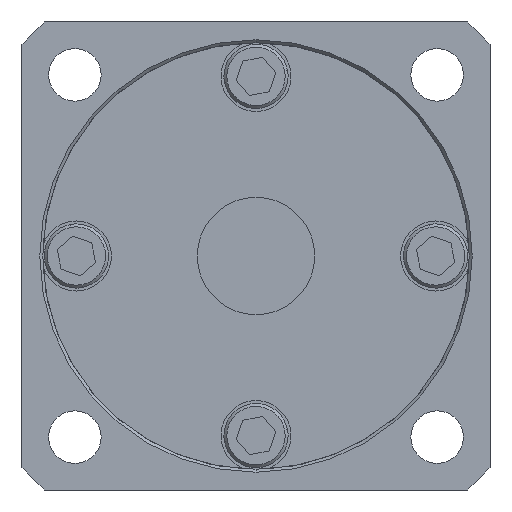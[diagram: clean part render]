
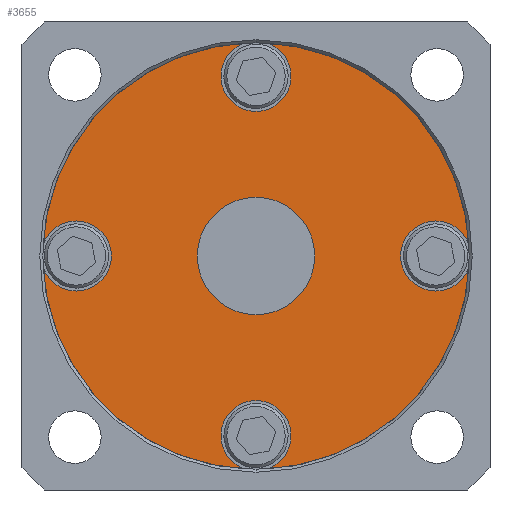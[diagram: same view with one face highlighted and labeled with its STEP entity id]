
A CAD part, front view. The second image highlights one B-rep face of the part: STEP entity #3655.
In plain terms, the highlighted planar face has unit normal (0, -1, 0).
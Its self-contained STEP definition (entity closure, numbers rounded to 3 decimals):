
#2971=CARTESIAN_POINT('',(0.,0.,0.));
#2972=DIRECTION('',(0.,-1.,0.));
#2973=DIRECTION('',(0.999,0.,0.051));
#2974=AXIS2_PLACEMENT_3D('',#2971,#2972,#2973);
#2979=CARTESIAN_POINT('',(15.375,0.,0.));
#2980=DIRECTION('',(0.,1.,0.));
#2981=DIRECTION('',(0.,0.,1.));
#2982=AXIS2_PLACEMENT_3D('',#2979,#2980,#2981);
#2987=CARTESIAN_POINT('',(15.375,0.,0.));
#2988=DIRECTION('',(0.,1.,0.));
#2989=DIRECTION('',(0.,0.,-1.));
#2990=AXIS2_PLACEMENT_3D('',#2987,#2988,#2989);
#2995=CARTESIAN_POINT('',(15.375,0.,0.));
#2996=DIRECTION('',(0.,1.,0.));
#2997=DIRECTION('',(0.95,0.,-0.311));
#2998=AXIS2_PLACEMENT_3D('',#2995,#2996,#2997);
#3003=CARTESIAN_POINT('',(0.,0.,0.));
#3004=DIRECTION('',(0.,-1.,0.));
#3005=DIRECTION('',(0.051,0.,-0.999));
#3006=AXIS2_PLACEMENT_3D('',#3003,#3004,#3005);
#3011=CARTESIAN_POINT('',(0.,0.,-15.375));
#3012=DIRECTION('',(0.,1.,0.));
#3013=DIRECTION('',(0.,0.,1.));
#3014=AXIS2_PLACEMENT_3D('',#3011,#3012,#3013);
#3019=CARTESIAN_POINT('',(0.,0.,-15.375));
#3020=DIRECTION('',(0.,1.,0.));
#3021=DIRECTION('',(-0.311,0.,-0.95));
#3022=AXIS2_PLACEMENT_3D('',#3019,#3020,#3021);
#3027=CARTESIAN_POINT('',(0.,0.,0.));
#3028=DIRECTION('',(0.,-1.,0.));
#3029=DIRECTION('',(-0.999,0.,-0.051));
#3030=AXIS2_PLACEMENT_3D('',#3027,#3028,#3029);
#3035=CARTESIAN_POINT('',(-15.375,0.,0.));
#3036=DIRECTION('',(0.,1.,0.));
#3037=DIRECTION('',(0.,0.,-1.));
#3038=AXIS2_PLACEMENT_3D('',#3035,#3036,#3037);
#3043=CARTESIAN_POINT('',(-15.375,0.,0.));
#3044=DIRECTION('',(0.,1.,0.));
#3045=DIRECTION('',(0.,0.,1.));
#3046=AXIS2_PLACEMENT_3D('',#3043,#3044,#3045);
#3051=CARTESIAN_POINT('',(-15.375,0.,0.));
#3052=DIRECTION('',(0.,1.,0.));
#3053=DIRECTION('',(-0.95,0.,0.311));
#3054=AXIS2_PLACEMENT_3D('',#3051,#3052,#3053);
#3059=CARTESIAN_POINT('',(0.,0.,0.));
#3060=DIRECTION('',(0.,-1.,0.));
#3061=DIRECTION('',(-0.051,0.,0.999));
#3062=AXIS2_PLACEMENT_3D('',#3059,#3060,#3061);
#3067=CARTESIAN_POINT('',(0.,0.,15.375));
#3068=DIRECTION('',(0.,1.,0.));
#3069=DIRECTION('',(0.,0.,-1.));
#3070=AXIS2_PLACEMENT_3D('',#3067,#3068,#3069);
#3075=CARTESIAN_POINT('',(0.,0.,15.375));
#3076=DIRECTION('',(0.,1.,0.));
#3077=DIRECTION('',(0.311,0.,0.95));
#3078=AXIS2_PLACEMENT_3D('',#3075,#3076,#3077);
#3083=CARTESIAN_POINT('',(0.,0.,0.));
#3084=DIRECTION('',(0.,1.,0.));
#3085=DIRECTION('',(0.,0.,-1.));
#3086=AXIS2_PLACEMENT_3D('',#3083,#3084,#3085);
#3091=CARTESIAN_POINT('',(0.,0.,0.));
#3092=DIRECTION('',(0.,1.,0.));
#3093=DIRECTION('',(0.,0.,1.));
#3094=AXIS2_PLACEMENT_3D('',#3091,#3092,#3093);
#3424=CARTESIAN_POINT('',(15.375,0.,-3.));
#3425=VERTEX_POINT('',#3424);
#3426=CARTESIAN_POINT('',(18.226,0.,-0.933));
#3427=VERTEX_POINT('',#3426);
#3434=CARTESIAN_POINT('',(15.375,0.,3.));
#3435=VERTEX_POINT('',#3434);
#3446=CARTESIAN_POINT('',(0.933,0.,-18.226));
#3447=VERTEX_POINT('',#3446);
#3452=CARTESIAN_POINT('',(0.,0.,-12.375));
#3453=VERTEX_POINT('',#3452);
#3454=CARTESIAN_POINT('',(-0.933,0.,-18.226));
#3455=VERTEX_POINT('',#3454);
#3456=CARTESIAN_POINT('',(18.226,0.,0.933));
#3457=VERTEX_POINT('',#3456);
#3470=CARTESIAN_POINT('',(0.933,0.,18.226));
#3471=VERTEX_POINT('',#3470);
#3484=CARTESIAN_POINT('',(0.,0.,-5.025));
#3485=CARTESIAN_POINT('',(0.,0.,5.025));
#3486=VERTEX_POINT('',#3484);
#3487=VERTEX_POINT('',#3485);
#3488=CARTESIAN_POINT('',(0.,0.,12.375));
#3489=CARTESIAN_POINT('',(-0.933,0.,18.226));
#3490=VERTEX_POINT('',#3488);
#3491=VERTEX_POINT('',#3489);
#3494=CARTESIAN_POINT('',(-15.375,0.,-3.));
#3495=VERTEX_POINT('',#3494);
#3496=CARTESIAN_POINT('',(-15.375,0.,3.));
#3497=VERTEX_POINT('',#3496);
#3498=CARTESIAN_POINT('',(-18.226,0.,-0.933));
#3499=VERTEX_POINT('',#3498);
#3504=CARTESIAN_POINT('',(-18.226,0.,0.933));
#3505=VERTEX_POINT('',#3504);
#3616=CARTESIAN_POINT('',(0.,0.,0.));
#3617=DIRECTION('',(0.,1.,0.));
#3618=DIRECTION('',(0.,0.,-1.));
#3619=AXIS2_PLACEMENT_3D('',#3616,#3617,#3618);
#3620=PLANE('',#3619);
#3622=ORIENTED_EDGE('',*,*,#3621,.F.);
#3624=ORIENTED_EDGE('',*,*,#3623,.F.);
#3626=ORIENTED_EDGE('',*,*,#3625,.F.);
#3628=ORIENTED_EDGE('',*,*,#3627,.F.);
#3630=ORIENTED_EDGE('',*,*,#3629,.F.);
#3632=ORIENTED_EDGE('',*,*,#3631,.F.);
#3634=ORIENTED_EDGE('',*,*,#3633,.F.);
#3636=ORIENTED_EDGE('',*,*,#3635,.F.);
#3638=ORIENTED_EDGE('',*,*,#3637,.F.);
#3640=ORIENTED_EDGE('',*,*,#3639,.F.);
#3642=ORIENTED_EDGE('',*,*,#3641,.F.);
#3644=ORIENTED_EDGE('',*,*,#3643,.F.);
#3645=ORIENTED_EDGE('',*,*,#3603,.F.);
#3646=ORIENTED_EDGE('',*,*,#3611,.F.);
#3647=EDGE_LOOP('',(#3622,#3624,#3626,#3628,#3630,#3632,#3634,#3636,#3638,#3640,
#3642,#3644,#3645,#3646));
#3648=FACE_OUTER_BOUND('',#3647,.F.);
#3650=ORIENTED_EDGE('',*,*,#3649,.F.);
#3652=ORIENTED_EDGE('',*,*,#3651,.F.);
#3653=EDGE_LOOP('',(#3650,#3652));
#3654=FACE_BOUND('',#3653,.F.);
#2975=CIRCLE('',#2974,18.25);
#2983=CIRCLE('',#2982,3.);
#2991=CIRCLE('',#2990,3.);
#2999=CIRCLE('',#2998,3.);
#3007=CIRCLE('',#3006,18.25);
#3015=CIRCLE('',#3014,3.);
#3023=CIRCLE('',#3022,3.);
#3031=CIRCLE('',#3030,18.25);
#3039=CIRCLE('',#3038,3.);
#3047=CIRCLE('',#3046,3.);
#3055=CIRCLE('',#3054,3.);
#3063=CIRCLE('',#3062,18.25);
#3071=CIRCLE('',#3070,3.);
#3079=CIRCLE('',#3078,3.);
#3087=CIRCLE('',#3086,5.025);
#3095=CIRCLE('',#3094,5.025);
#3603=EDGE_CURVE('',#3490,#3491,#3071,.T.);
#3611=EDGE_CURVE('',#3471,#3490,#3079,.T.);
#3621=EDGE_CURVE('',#3457,#3471,#2975,.T.);
#3623=EDGE_CURVE('',#3435,#3457,#2983,.T.);
#3625=EDGE_CURVE('',#3425,#3435,#2991,.T.);
#3627=EDGE_CURVE('',#3427,#3425,#2999,.T.);
#3629=EDGE_CURVE('',#3447,#3427,#3007,.T.);
#3631=EDGE_CURVE('',#3453,#3447,#3015,.T.);
#3633=EDGE_CURVE('',#3455,#3453,#3023,.T.);
#3635=EDGE_CURVE('',#3499,#3455,#3031,.T.);
#3637=EDGE_CURVE('',#3495,#3499,#3039,.T.);
#3639=EDGE_CURVE('',#3497,#3495,#3047,.T.);
#3641=EDGE_CURVE('',#3505,#3497,#3055,.T.);
#3643=EDGE_CURVE('',#3491,#3505,#3063,.T.);
#3649=EDGE_CURVE('',#3486,#3487,#3087,.T.);
#3651=EDGE_CURVE('',#3487,#3486,#3095,.T.);
#3655=ADVANCED_FACE('',(#3648,#3654),#3620,.F.);
